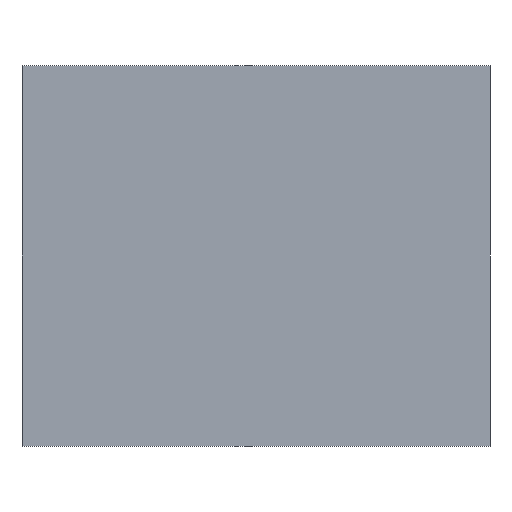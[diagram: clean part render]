
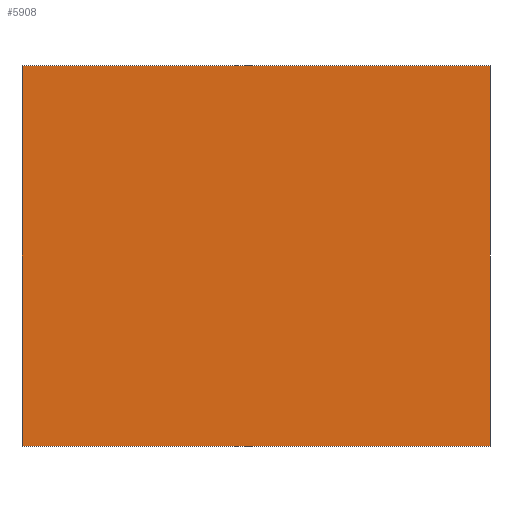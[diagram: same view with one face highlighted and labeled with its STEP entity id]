
A CAD part, front view. The second image highlights one B-rep face of the part: STEP entity #5908.
In plain terms, the highlighted planar face has unit normal (0, -1, 0).
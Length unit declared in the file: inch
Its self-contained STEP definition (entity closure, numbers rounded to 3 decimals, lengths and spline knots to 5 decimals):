
#5908 = ADVANCED_FACE ( 'NONE', ( #14956 ), #14957, .F. ) ;
#7232 = ORIENTED_EDGE ( 'NONE', *, *, #9779, .T. ) ;
#7233 = ORIENTED_EDGE ( 'NONE', *, *, #9788, .T. ) ;
#7234 = ORIENTED_EDGE ( 'NONE', *, *, #9795, .T. ) ;
#7235 = ORIENTED_EDGE ( 'NONE', *, *, #9802, .T. ) ;
#7428 = EDGE_LOOP ( 'NONE', ( #7232, #7233, #7234, #7235 ) ) ;
#9779 = EDGE_CURVE ( 'NONE', #14622, #14625, #16353, .T. ) ;
#9788 = EDGE_CURVE ( 'NONE', #14625, #14626, #16377, .T. ) ;
#9795 = EDGE_CURVE ( 'NONE', #14626, #14292, #16384, .T. ) ;
#9802 = EDGE_CURVE ( 'NONE', #14292, #14622, #16391, .T. ) ;
#14292 = VERTEX_POINT ( 'NONE', #18036 ) ;
#14622 = VERTEX_POINT ( 'NONE', #23111 ) ;
#14625 = VERTEX_POINT ( 'NONE', #23114 ) ;
#14626 = VERTEX_POINT ( 'NONE', #23115 ) ;
#14953 = CARTESIAN_POINT ( 'NONE',  ( 9.42755, -5.27381, 1.78479 ) ) ;
#14956 = FACE_OUTER_BOUND ( 'NONE', #7428, .T. ) ;
#14957 = PLANE ( 'NONE',  #24768 ) ;
#14959 = DIRECTION ( 'NONE',  ( 0., 1., 0. ) ) ;
#14960 = DIRECTION ( 'NONE',  ( 0., 0., -1. ) ) ;
#16353 = LINE ( 'NONE', #16370, #17001 ) ;
#16370 = CARTESIAN_POINT ( 'NONE',  ( -9.835, -5.27381, -8.1 ) ) ;
#16372 = DIRECTION ( 'NONE',  ( 0., 0., -1. ) ) ;
#16377 = LINE ( 'NONE', #16395, #17008 ) ;
#16384 = LINE ( 'NONE', #16415, #17009 ) ;
#16391 = LINE ( 'NONE', #16435, #17012 ) ;
#16395 = CARTESIAN_POINT ( 'NONE',  ( -9.835, -5.27381, -8.1 ) ) ;
#16399 = DIRECTION ( 'NONE',  ( 1., 0., 0. ) ) ;
#16415 = CARTESIAN_POINT ( 'NONE',  ( 9.835, -5.27381, -8.1 ) ) ;
#16419 = DIRECTION ( 'NONE',  ( 0., 0., 1. ) ) ;
#16435 = CARTESIAN_POINT ( 'NONE',  ( -9.835, -5.27381, 7.87625 ) ) ;
#16439 = DIRECTION ( 'NONE',  ( -1., 0., 0. ) ) ;
#17001 = VECTOR ( 'NONE', #16372, 39.37008 ) ;
#17008 = VECTOR ( 'NONE', #16399, 39.37008 ) ;
#17009 = VECTOR ( 'NONE', #16419, 39.37008 ) ;
#17012 = VECTOR ( 'NONE', #16439, 39.37008 ) ;
#18036 = CARTESIAN_POINT ( 'NONE',  ( 9.835, -5.27381, 7.87625 ) ) ;
#23111 = CARTESIAN_POINT ( 'NONE',  ( -9.835, -5.27381, 7.87625 ) ) ;
#23114 = CARTESIAN_POINT ( 'NONE',  ( -9.835, -5.27381, -8.1 ) ) ;
#23115 = CARTESIAN_POINT ( 'NONE',  ( 9.835, -5.27381, -8.1 ) ) ;
#24768 = AXIS2_PLACEMENT_3D ( 'NONE', #14953, #14959, #14960 ) ;
